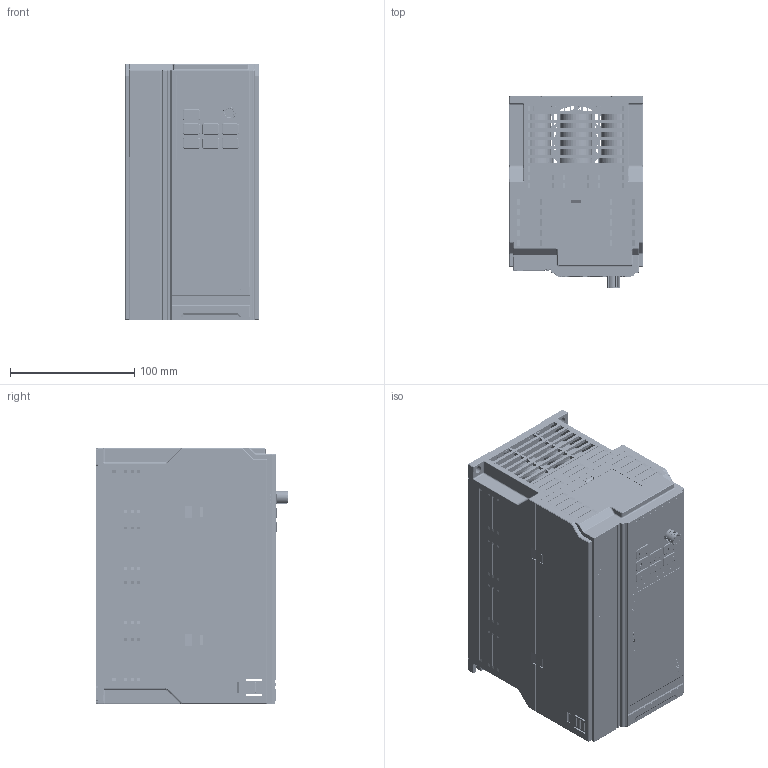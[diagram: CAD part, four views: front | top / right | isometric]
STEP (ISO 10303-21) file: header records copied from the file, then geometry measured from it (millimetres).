
FILE_DESCRIPTION(/* description */ (''),/* implementation_level */ '2;1');
FILE_NAME(/* name */ 'VH1-S3',/* time_stamp */ '2024-02-22T09:36:02+08:00',/* author */ (''),/* organization */ (''),/* preprocessor_version */ 'ST-DEVELOPER v19.2',/* originating_system */ 'Rhino 8.2',/* authorisation */ '');
FILE_SCHEMA (('CONFIG_CONTROL_DESIGN'));
Products named in the file (27): Document; 1_2_1_1; EMI_ASM_1_ASM; EMI_1; 1104020013_1; SANRENPIAN_1; JIDIANQI_1; EMC_1_1_1; BYQ_3_1_1; TO-247_4_1_1; XNG25PI24TL2S3_2_1_1; QDB_2_1_16; HF33F_1_1_1; _X2_65CB94AE_X0_-4_1_1_1; S3-BJ_40; BREP_3-231216_8; BREP_2-231216_13; ZJZH_ASM_2_ASM; JT_1; ZJT_1; S3-47P5-SRQ-231031_14; S2FSZ_7_1_2; FENGSHAN6025_4_1_1; DRB_ASM_10_ASM_1_ASM_8_ASM; DRB_16_1_8; 25X52_4_1_2; 2-12_1_1_1
Bounding box: 108.6 x 154.2 x 206 mm (x, y, z)
Volume: 941811.6 mm3; surface area: 827400.4 mm2
Topology: 470 solids, 470 shells, 16365 faces, 44080 edges, 28359 vertices
Faces by surface type: plane 11565, cylinder 3166, bspline 1634
Entity records: 535969 total; most frequent: CARTESIAN_POINT 209823, ORIENTED_EDGE 87190, EDGE_CURVE 43595, B_SPLINE_CURVE_WITH_KNOTS 36271, VERTEX_POINT 28286, DIRECTION 27661, AXIS2_PLACEMENT_3D 21137, EDGE_LOOP 17303
